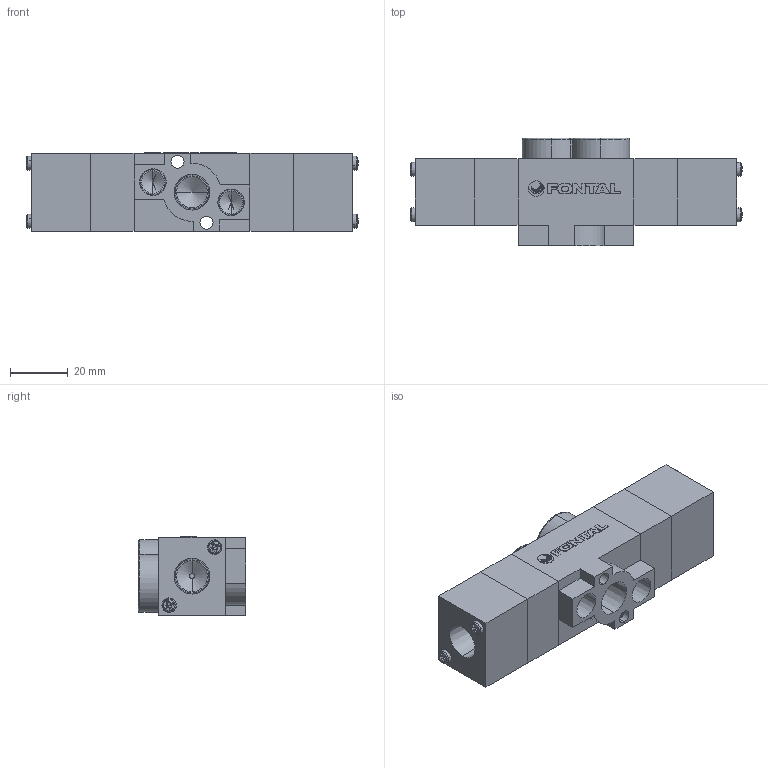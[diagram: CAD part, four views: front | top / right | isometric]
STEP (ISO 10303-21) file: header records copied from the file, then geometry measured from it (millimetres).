
FILE_DESCRIPTION (( 'STEP AP203' ), '1' );
FILE_NAME ('YCD(E)(O)3406-02.STEP', '2016-08-08T01:31:47', ( '' ), ( '' ), 'SwSTEP 2.0', 'SolidWorks 2014', '' );
FILE_SCHEMA (( 'CONFIG_CONTROL_DESIGN' ));
Length unit declared in the file: metre
Products named in the file (6): YCS-2406-02; PC06-MARK_17; PC6-M3_47; RC06-1_2; YCD(E)(O)3406-02; RC06-7=15_2
Assembly tree (10 placements, depth 2):
  YCD(E)(O)3406-02
    PC06-MARK_17
    RC06-1_2
    PC6-M3_47  x4
    RC06-7=15_2  x2
    YCS-2406-02  x2
Bounding box: 114.49 x 37 x 27.15 mm (x, y, z)
Volume: 64041.3 mm3; surface area: 24754 mm2
Topology: 16 solids, 16 shells, 379 faces, 939 edges, 590 vertices
Faces by surface type: plane 207, cylinder 67, cone 64, bspline 41
Entity records: 8710 total; most frequent: CARTESIAN_POINT 1891, ORIENTED_EDGE 1262, DIRECTION 1233, EDGE_CURVE 631, AXIS2_PLACEMENT_3D 417, VERTEX_POINT 411, VECTOR 399, LINE 399
